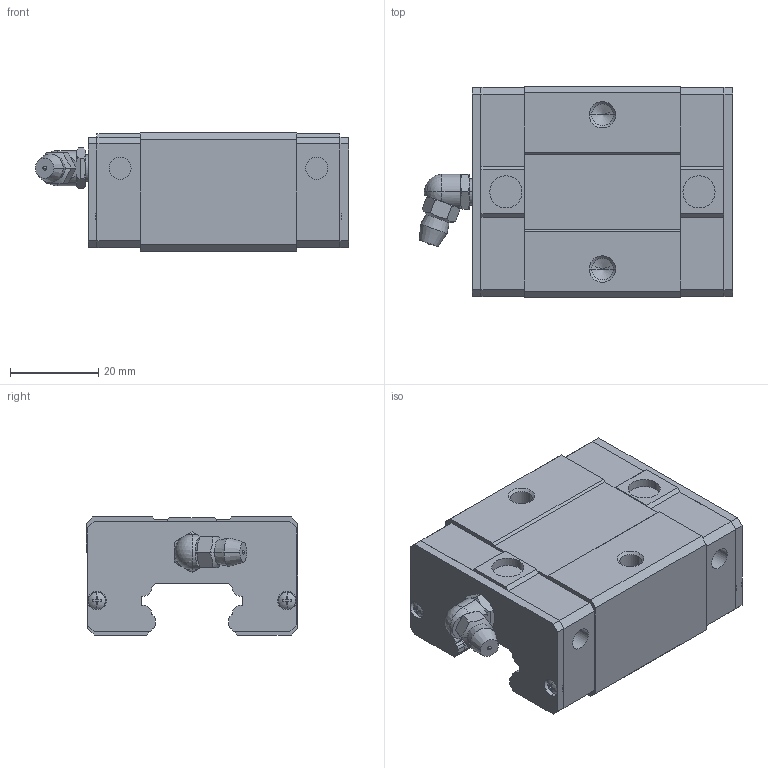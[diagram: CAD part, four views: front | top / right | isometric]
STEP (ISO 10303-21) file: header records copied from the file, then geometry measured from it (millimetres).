
FILE_DESCRIPTION(('starvars output'),'2;1');
FILE_NAME('cv20190610052209000018229.stp','05:22:09 2019/06/10',( 'Thomas Industrial Network Germany GmbH'),( 'Thomas Industrial Network Germany GmbH'),'unknown preprocess','ACIS' ,'unknown authorization');
FILE_SCHEMA(('CONFIG_CONTROL_DESIGN {UNKNOWN IMPLEMENTATION LEVEL}'));
Length unit declared in the file: millimetre
Products named in the file (10): PRODUCT_ID_1; PRODUCT_ID_2; PRODUCT_ID_3; PRODUCT_ID_4; PRODUCT_ID_5; PRODUCT_ID_6; PRODUCT_ID_7; PRODUCT_ID_8; PRODUCT_ID_9; PRODUCT_ID_10
Bounding box: 71.1 x 48 x 26.8 mm (x, y, z)
Volume: 59715 mm3; surface area: 21791 mm2
Topology: 10 solids, 10 shells, 403 faces, 1052 edges, 678 vertices
Faces by surface type: plane 212, cylinder 127, cone 52, sphere 12
Entity records: 12144 total; most frequent: ORIENTED_EDGE 2088, CARTESIAN_POINT 1992, DIRECTION 1789, EDGE_CURVE 1044, VERTEX_POINT 678, AXIS2_PLACEMENT_3D 601, VECTOR 587, LINE 587
